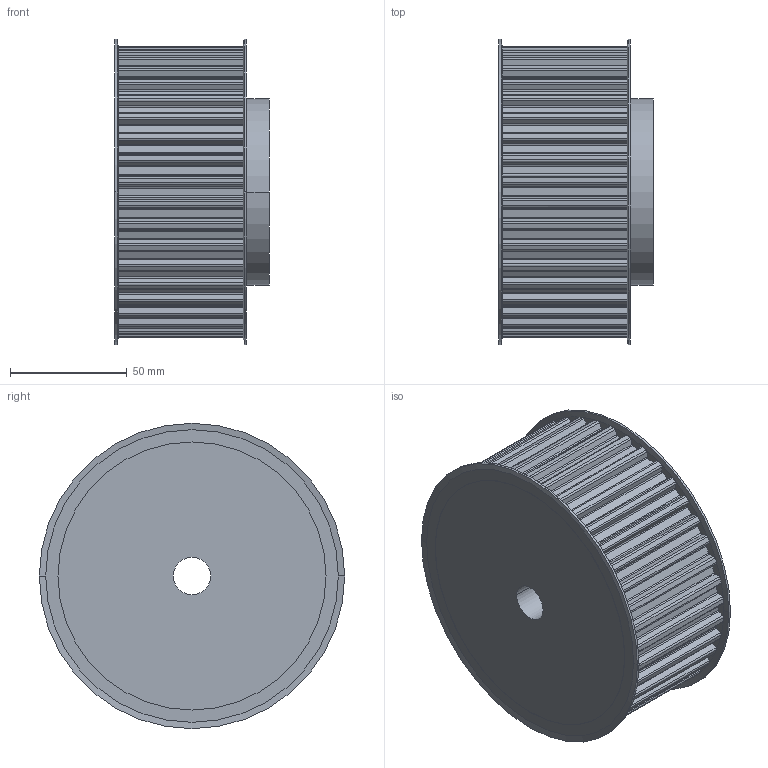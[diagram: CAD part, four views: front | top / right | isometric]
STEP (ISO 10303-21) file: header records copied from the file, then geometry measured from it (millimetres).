
FILE_DESCRIPTION( ( '' ), '1' );
FILE_NAME( 'C:/Users/Stangenbergd/Documents/CAD_Step/1/16454000.stp', '2021-10-19T09:01:53', ( '' ), ( '' ), ' ', ' ', ' ' );
FILE_SCHEMA( ( 'CONFIG_CONTROL_DESIGN' ) );
Length unit declared in the file: millimetre
Products named in the file (1): 1
Bounding box: 66.24 x 131 x 131 mm (x, y, z)
Volume: 691784.2 mm3; surface area: 67000.3 mm2
Topology: 1 solids, 1 shells, 347 faces, 1012 edges, 672 vertices
Faces by surface type: cylinder 212, plane 127, cone 8
Entity records: 11702 total; most frequent: DIRECTION 2140, CARTESIAN_POINT 2032, ORIENTED_EDGE 2024, EDGE_CURVE 1012, AXIS2_PLACEMENT_3D 780, VERTEX_POINT 672, LINE 580, VECTOR 580
